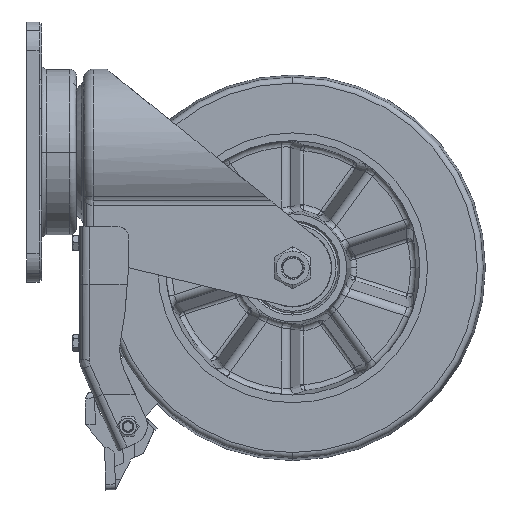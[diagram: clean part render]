
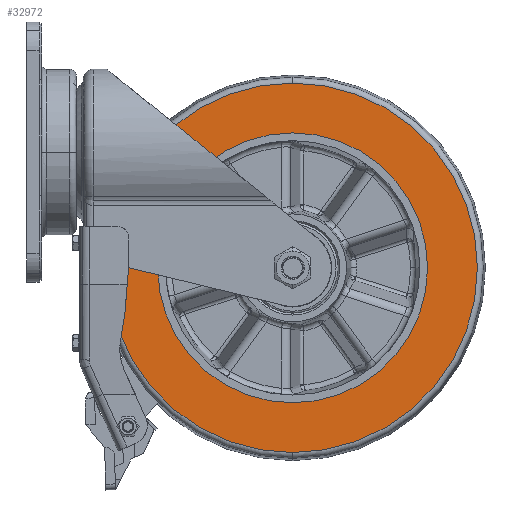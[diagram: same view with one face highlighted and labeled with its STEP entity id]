
A CAD part, left-side view. The second image highlights one B-rep face of the part: STEP entity #32972.
In plain terms, the highlighted planar face has unit normal (-1, 0, 0).
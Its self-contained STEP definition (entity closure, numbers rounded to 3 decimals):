
#5070 = DIRECTION ( 'NONE',  ( -1., 0., 0. ) ) ;
#10697 = DIRECTION ( 'NONE',  ( 0., 0., 1. ) ) ;
#15050 = VERTEX_POINT ( 'NONE', #108075 ) ;
#16717 = CIRCLE ( 'NONE', #51922, 70. ) ;
#17475 = DIRECTION ( 'NONE',  ( 0., 0., 1. ) ) ;
#17682 = EDGE_CURVE ( 'NONE', #93385, #64427, #16717, .T. ) ;
#18122 = EDGE_CURVE ( 'NONE', #64427, #93385, #65257, .T. ) ;
#18971 = DIRECTION ( 'NONE',  ( 0., 0., 1. ) ) ;
#19401 = ORIENTED_EDGE ( 'NONE', *, *, #77707, .T. ) ;
#23651 = CARTESIAN_POINT ( 'NONE',  ( 26.576, 172.348, 140.688 ) ) ;
#25885 = EDGE_LOOP ( 'NONE', ( #89140, #124285 ) ) ;
#27882 = AXIS2_PLACEMENT_3D ( 'NONE', #40209, #31890, #82357 ) ;
#31890 = DIRECTION ( 'NONE',  ( -1., 0., 0. ) ) ;
#32972 = ADVANCED_FACE ( 'NONE', ( #127243, #33982 ), #127918, .T. ) ;
#33982 = FACE_OUTER_BOUND ( 'NONE', #61557, .T. ) ;
#38970 = ORIENTED_EDGE ( 'NONE', *, *, #104435, .T. ) ;
#40209 = CARTESIAN_POINT ( 'NONE',  ( 26.576, 102.348, 140.688 ) ) ;
#45036 = DIRECTION ( 'NONE',  ( 0., 0., 1. ) ) ;
#50357 = CARTESIAN_POINT ( 'NONE',  ( 26.576, 102.348, 210.688 ) ) ;
#51922 = AXIS2_PLACEMENT_3D ( 'NONE', #123136, #5070, #17475 ) ;
#61557 = EDGE_LOOP ( 'NONE', ( #19401, #38970 ) ) ;
#64427 = VERTEX_POINT ( 'NONE', #50357 ) ;
#65257 = CIRCLE ( 'NONE', #104867, 70. ) ;
#67047 = AXIS2_PLACEMENT_3D ( 'NONE', #71473, #72840, #18971 ) ;
#69634 = VERTEX_POINT ( 'NONE', #107336 ) ;
#71473 = CARTESIAN_POINT ( 'NONE',  ( 26.576, 102.348, 140.688 ) ) ;
#72840 = DIRECTION ( 'NONE',  ( -1., 0., 0. ) ) ;
#77707 = EDGE_CURVE ( 'NONE', #15050, #69634, #111128, .T. ) ;
#82357 = DIRECTION ( 'NONE',  ( 0., 0., 1. ) ) ;
#86476 = DIRECTION ( 'NONE',  ( -1., 0., 0. ) ) ;
#86711 = AXIS2_PLACEMENT_3D ( 'NONE', #23651, #86476, #45036 ) ;
#89140 = ORIENTED_EDGE ( 'NONE', *, *, #17682, .F. ) ;
#93385 = VERTEX_POINT ( 'NONE', #135298 ) ;
#94236 = CARTESIAN_POINT ( 'NONE',  ( 26.576, 102.348, 140.688 ) ) ;
#104435 = EDGE_CURVE ( 'NONE', #69634, #15050, #107283, .T. ) ;
#104867 = AXIS2_PLACEMENT_3D ( 'NONE', #94236, #125336, #10697 ) ;
#107283 = CIRCLE ( 'NONE', #27882, 95.843 ) ;
#107336 = CARTESIAN_POINT ( 'NONE',  ( 26.576, 102.348, 44.845 ) ) ;
#108075 = CARTESIAN_POINT ( 'NONE',  ( 26.576, 102.348, 236.531 ) ) ;
#111128 = CIRCLE ( 'NONE', #67047, 95.843 ) ;
#123136 = CARTESIAN_POINT ( 'NONE',  ( 26.576, 102.348, 140.688 ) ) ;
#124285 = ORIENTED_EDGE ( 'NONE', *, *, #18122, .F. ) ;
#125336 = DIRECTION ( 'NONE',  ( -1., 0., 0. ) ) ;
#127243 = FACE_BOUND ( 'NONE', #25885, .T. ) ;
#127918 = PLANE ( 'NONE',  #86711 ) ;
#135298 = CARTESIAN_POINT ( 'NONE',  ( 26.576, 102.348, 70.688 ) ) ;
